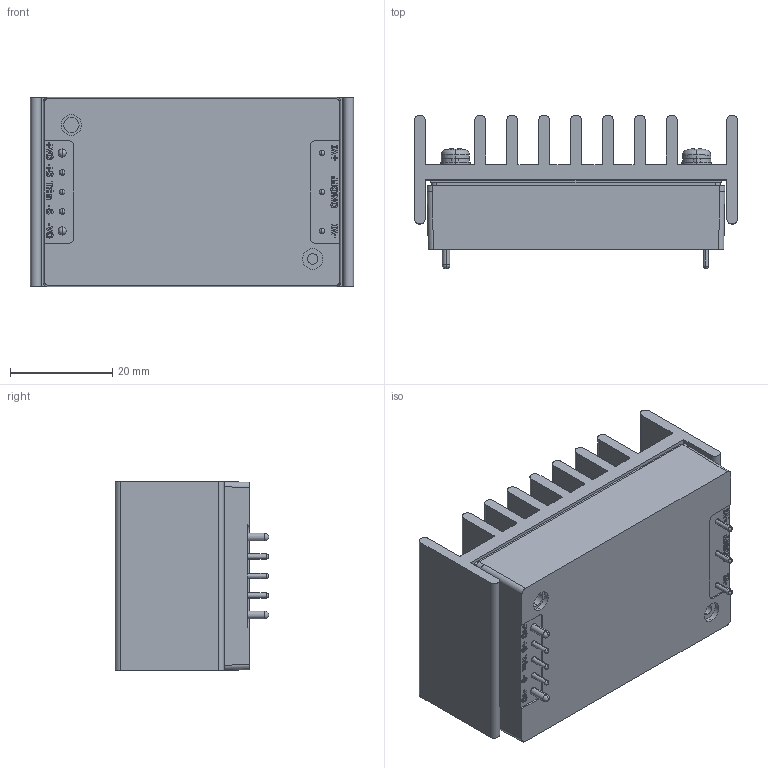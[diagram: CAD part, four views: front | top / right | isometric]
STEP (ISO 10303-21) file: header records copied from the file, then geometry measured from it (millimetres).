
FILE_DESCRIPTION (( 'STEP AP214' ), '1' );
FILE_NAME ('MRZI75+HS(0.5in)(20241022).STEP', '2024-10-22T06:57:06', ( '' ), ( '' ), 'SwSTEP 2.0', 'SolidWorks 2021', '' );
FILE_SCHEMA (( 'AUTOMOTIVE_DESIGN' ));
Length unit declared in the file: millimetre
Products named in the file (6): MRZI75+HS(0.5in)(20241022); Hero_20191120-01(086-HS-46&47&48_1版)_0.5in(086-HS-47); MRZI75 鋁基板(20211125)_CASE 開口階梯用; MRZI75 CASE(081-CMRZI-4)(R09)_欣德(20240507)-印花用; MTQZ50 散熱片導熱矽膠_開口階梯CASE用; MISUMI-NSET3-12
Assembly tree (6 placements, depth 2):
  MRZI75+HS(0.5in)(20241022)
    MRZI75 CASE(081-CMRZI-4)(R09)_欣德(20240507)-印花用
    MRZI75 鋁基板(20211125)_CASE 開口階梯用
    MTQZ50 散熱片導熱矽膠_開口階梯CASE用
    Hero_20191120-01(086-HS-46&47&48_1版)_0.5in(086-HS-47)
    MISUMI-NSET3-12  x2
Bounding box: 63.2 x 30.05 x 37.14 mm (x, y, z)
Volume: 43719 mm3; surface area: 29322.9 mm2
Topology: 8 solids, 8 shells, 1531 faces, 3886 edges, 2577 vertices
Faces by surface type: plane 1231, cylinder 154, bspline 100, cone 22, sphere 20, torus 4
Entity records: 61528 total; most frequent: CARTESIAN_POINT 12451, ORIENTED_EDGE 7504, DIRECTION 6658, EDGE_CURVE 3752, VECTOR 3206, LINE 3206, VERTEX_POINT 2495, EDGE_LOOP 1739
